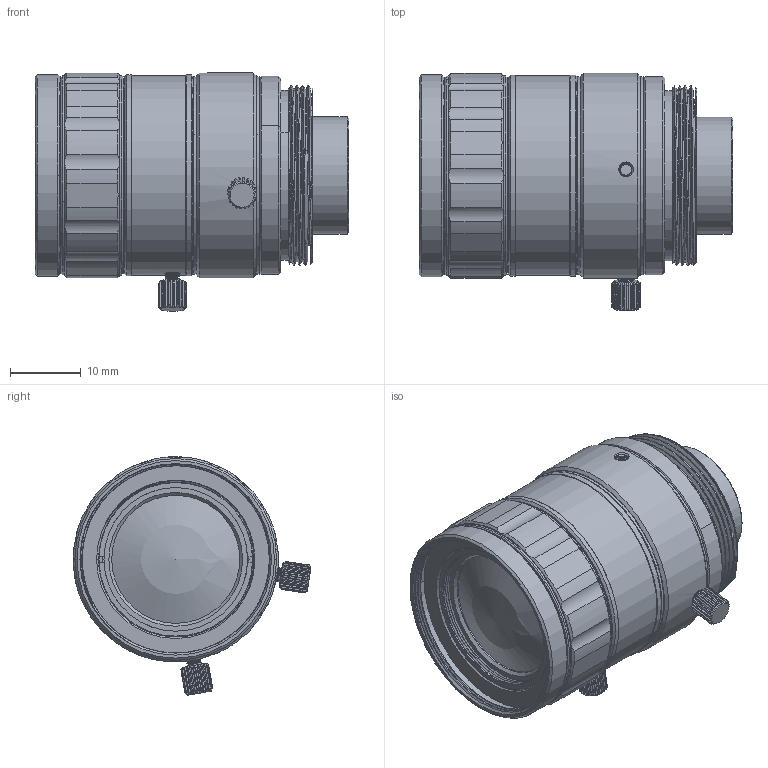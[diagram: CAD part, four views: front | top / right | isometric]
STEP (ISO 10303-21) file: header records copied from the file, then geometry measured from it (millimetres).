
FILE_DESCRIPTION(/* description */ ('CAx-IF Rec.Pracs.---Representation and Presentation of Product Manufacturing Information (PMI)---4.0---2014-10-13','CAx-IF Rec.Pracs.---3D Tessellated Geometry---0.4---2014-09-14','2;1'),/* implementation_level */ '2;1');
FILE_NAME(/* name */ 'YT60509',/* time_stamp */ '2019-11-30T20:00:34+08:00',/* author */ (''),/* organization */ (''),/* preprocessor_version */ 'ST-DEVELOPER v16.7',/* originating_system */ $,/* authorisation */ $);
FILE_SCHEMA (('AP242_MANAGED_MODEL_BASED_3D_ENGINEERING_MIM_LF { 1 0 10303 442 20130219 1 4 }'));
Length unit declared in the file: millimetre
Products named in the file (1): YT60509
Bounding box: 44.34 x 33.59 x 33.7 mm (x, y, z)
Volume: 22741.8 mm3; surface area: 12183 mm2
Topology: 10 solids, 12 shells, 843 faces, 2202 edges, 1412 vertices
Faces by surface type: cylinder 286, plane 279, cone 139, bspline 121, torus 12, sphere 6
Full cylindrical faces by diameter (mm): 2 x1, 8.8 x1, 10 x2, 11.5 x1, 16.6 x1, 18.1 x1, 19.1 x1, 22.192 x1, 22.3 x1, 22.403 x1, 26.235 x1, 28.2 x1, 28.4 x2, 28.5 x1, 29 x1
Entity records: 43862 total; most frequent: CARTESIAN_POINT 25227, ORIENTED_EDGE 4238, DIRECTION 3124, EDGE_CURVE 2135, VERTEX_POINT 1392, AXIS2_PLACEMENT_3D 1258, B_SPLINE_CURVE_WITH_KNOTS 992, EDGE_LOOP 939
